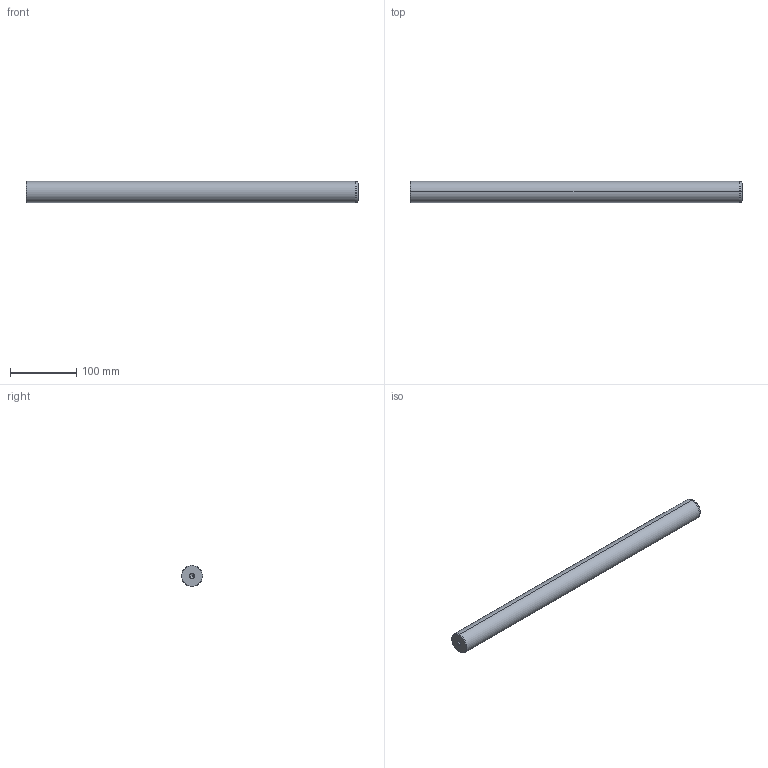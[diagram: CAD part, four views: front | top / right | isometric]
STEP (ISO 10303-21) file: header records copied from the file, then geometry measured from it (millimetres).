
FILE_DESCRIPTION(('CATIA V5 STEP Exchange'),'2;1');
FILE_NAME('C:\Users\Utente\Desktop\IO LAVORO\3D X SITO CF\X SITO\720\720-32x500.stp','2021-01-01T12:09:11+00:00',('none'),('none'),'CATIA Version 5 Release 20 GA (IN-10)','CATIA V5 STEP AP203','none');
FILE_SCHEMA(('CONFIG_CONTROL_DESIGN'));
Length unit declared in the file: millimetre
Products named in the file (1): 720-32x500
Bounding box: 500 x 32 x 32 mm (x, y, z)
Volume: 400071.3 mm3; surface area: 52658.2 mm2
Topology: 1 solids, 1 shells, 22 faces, 62 edges, 40 vertices
Faces by surface type: cone 12, cylinder 6, plane 2, torus 2
Entity records: 806 total; most frequent: CARTESIAN_POINT 229, ORIENTED_EDGE 116, DIRECTION 93, EDGE_CURVE 58, AXIS2_PLACEMENT_3D 54, VERTEX_POINT 40, CIRCLE 31, EDGE_LOOP 24
